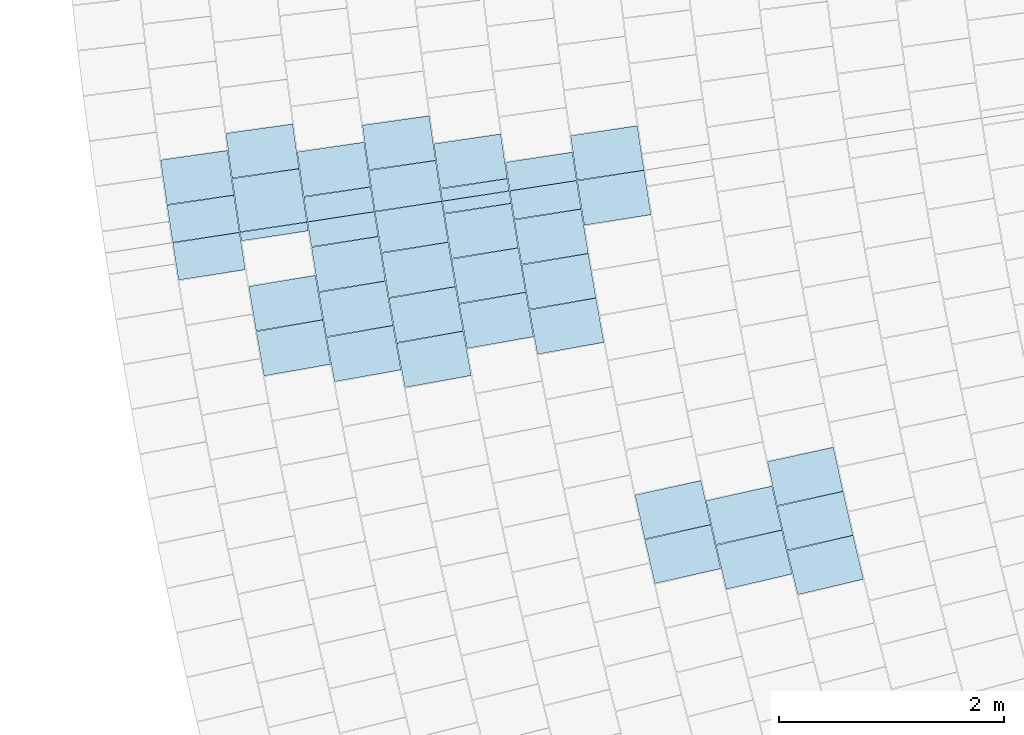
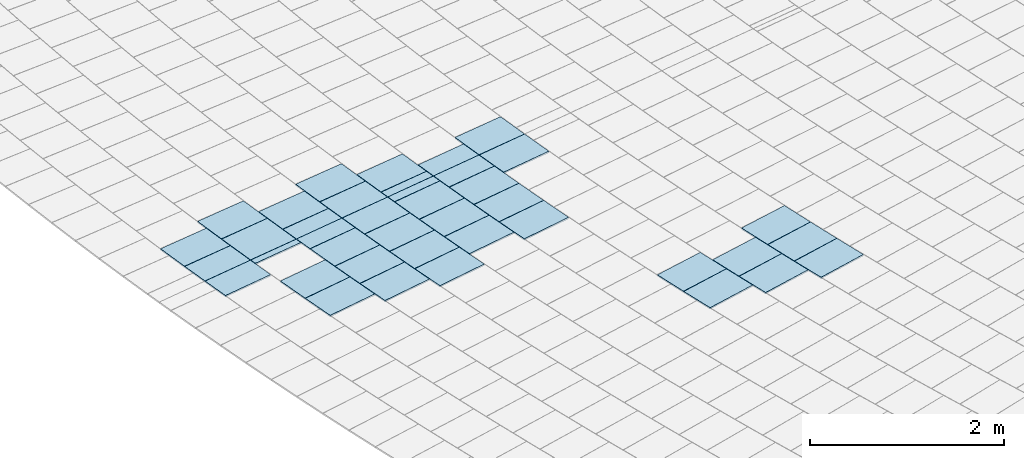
# One storey, part 75 of 438: 40 slabs.
"""IFC2X3 building model written with IfcOpenShell, lengths in millimetres."""

from ifc_helpers import new_model, entity, si_unit, converted_unit, derived_unit, direction, frame, origin, place, context, subcontext, project, spatial, polyline, outline, extrude, material, layer, layer_set, layer_usage, type_object, element, save


model = new_model("IFC2X3")

# Units and contexts
model_context = context("Model", 3, precision=0.01, world=origin(), true_north=direction((6.123031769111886e-17, 1.0)))
body_context = subcontext(model_context, "Body", "Model", "MODEL_VIEW")
ifc_project = project(units=[si_unit("LENGTHUNIT", "METRE", prefix="MILLI"), si_unit("AREAUNIT", "SQUARE_METRE"), si_unit("VOLUMEUNIT", "CUBIC_METRE"), converted_unit("PLANEANGLEUNIT", "DEGREE", entity("IfcRatioMeasure", 0.017453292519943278), si_unit("PLANEANGLEUNIT", "RADIAN"), dimensions=[0, 0, 0, 0, 0, 0, 0]), si_unit("MASSUNIT", "GRAM", prefix="KILO"), derived_unit("MASSDENSITYUNIT", [(si_unit("MASSUNIT", "GRAM", prefix="KILO"), 1), (si_unit("LENGTHUNIT", "METRE"), -3)]), derived_unit("MOMENTOFINERTIAUNIT", [(si_unit("LENGTHUNIT", "METRE"), 4)]), si_unit("TIMEUNIT", "SECOND"), si_unit("FREQUENCYUNIT", "HERTZ"), si_unit("THERMODYNAMICTEMPERATUREUNIT", "DEGREE_CELSIUS"), derived_unit("THERMALTRANSMITTANCEUNIT", [(si_unit("MASSUNIT", "GRAM", prefix="KILO"), 1), (si_unit("THERMODYNAMICTEMPERATUREUNIT", "KELVIN"), -1), (si_unit("TIMEUNIT", "SECOND"), -3)]), derived_unit("THERMALCONDUCTANCEUNIT", [(si_unit("MASSUNIT", "GRAM", prefix="KILO"), 1), (si_unit("LENGTHUNIT", "METRE"), 1), (si_unit("THERMODYNAMICTEMPERATUREUNIT", "KELVIN"), -1), (si_unit("TIMEUNIT", "SECOND"), -3)]), derived_unit("VOLUMETRICFLOWRATEUNIT", [(si_unit("LENGTHUNIT", "METRE"), 3), (si_unit("TIMEUNIT", "SECOND"), -1)]), derived_unit("MASSFLOWRATEUNIT", [(si_unit("MASSUNIT", "GRAM", prefix="KILO"), 1), (si_unit("TIMEUNIT", "SECOND"), -1)]), derived_unit("ROTATIONALFREQUENCYUNIT", [(si_unit("TIMEUNIT", "SECOND"), -1)]), si_unit("ELECTRICCURRENTUNIT", "AMPERE"), si_unit("ELECTRICVOLTAGEUNIT", "VOLT"), si_unit("POWERUNIT", "WATT"), converted_unit("FORCEUNIT", "KIP", entity("IfcRatioMeasure", 2.088543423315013e-05), si_unit("FORCEUNIT", "NEWTON"), dimensions=[1, 1, -2, 0, 0, 0, 0]), si_unit("ILLUMINANCEUNIT", "LUX"), si_unit("LUMINOUSFLUXUNIT", "LUMEN"), si_unit("LUMINOUSINTENSITYUNIT", "CANDELA"), derived_unit("USERDEFINED", [(si_unit("MASSUNIT", "GRAM", prefix="KILO"), -1), (si_unit("LENGTHUNIT", "METRE"), -2), (si_unit("TIMEUNIT", "SECOND"), 3), (si_unit("LUMINOUSFLUXUNIT", "LUMEN"), 1)]), derived_unit("USERDEFINED", [(si_unit("MASSUNIT", "GRAM", prefix="KILO"), 1), (si_unit("LENGTHUNIT", "METRE"), 3), (si_unit("TIMEUNIT", "SECOND"), -3), (si_unit("ELECTRICCURRENTUNIT", "AMPERE"), -2)]), derived_unit("USERDEFINED", [(si_unit("LENGTHUNIT", "METRE"), 2), (si_unit("TIMEUNIT", "SECOND"), -2)]), derived_unit("SOUNDPOWERUNIT", [(si_unit("MASSUNIT", "GRAM", prefix="KILO"), 1), (si_unit("LENGTHUNIT", "METRE"), 2), (si_unit("TIMEUNIT", "SECOND"), -3)]), derived_unit("SOUNDPRESSUREUNIT", [(si_unit("MASSUNIT", "GRAM", prefix="KILO"), 1), (si_unit("LENGTHUNIT", "METRE"), -1), (si_unit("TIMEUNIT", "SECOND"), -2)]), derived_unit("LINEARVELOCITYUNIT", [(si_unit("LENGTHUNIT", "METRE"), 1), (si_unit("TIMEUNIT", "SECOND"), -1)]), si_unit("PRESSUREUNIT", "PASCAL"), derived_unit("USERDEFINED", [(si_unit("LENGTHUNIT", "METRE"), -2), (si_unit("MASSUNIT", "GRAM", prefix="KILO"), 1), (si_unit("TIMEUNIT", "SECOND"), -2)]), derived_unit("LINEARFORCEUNIT", [(si_unit("MASSUNIT", "GRAM", prefix="KILO"), 1), (si_unit("LENGTHUNIT", "METRE"), 1), (si_unit("TIMEUNIT", "SECOND"), -2), (si_unit("LENGTHUNIT", "METRE"), -1)]), derived_unit("PLANARFORCEUNIT", [(si_unit("MASSUNIT", "GRAM", prefix="KILO"), 1), (si_unit("LENGTHUNIT", "METRE"), 1), (si_unit("TIMEUNIT", "SECOND"), -2), (si_unit("LENGTHUNIT", "METRE"), -2)]), derived_unit("SPECIFICHEATCAPACITYUNIT", [(si_unit("LENGTHUNIT", "METRE"), 2), (si_unit("TIMEUNIT", "SECOND"), -2), (si_unit("THERMODYNAMICTEMPERATUREUNIT", "KELVIN"), -1)]), derived_unit("VAPORPERMEABILITYUNIT", [(si_unit("TIMEUNIT", "SECOND"), 1), (si_unit("LENGTHUNIT", "METRE"), -1)]), derived_unit("DYNAMICVISCOSITYUNIT", [(si_unit("MASSUNIT", "GRAM", prefix="KILO"), 1), (si_unit("LENGTHUNIT", "METRE"), -1), (si_unit("TIMEUNIT", "SECOND"), -1)]), derived_unit("THERMALEXPANSIONCOEFFICIENTUNIT", [(si_unit("THERMODYNAMICTEMPERATUREUNIT", "KELVIN"), -1)])], contexts=[model_context])

# Site, building, storey
site_placement = place(None, frame((0.0, 0.0, 0.0), z_axis=(0.0, 0.0, 1.0), x_axis=(0.8191520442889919, 0.5735764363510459, 0.0)))
site = spatial("IfcSite", under=ifc_project, at=site_placement, Name="Default", CompositionType="ELEMENT")
building_placement = place(site_placement, origin())
building = spatial("IfcBuilding", under=site, at=building_placement, CompositionType="ELEMENT")
storey_placement = place(building_placement, origin())
storey = spatial("IfcBuildingStorey", under=building, at=storey_placement, Name="PLAN", CompositionType="ELEMENT", Elevation=0.0)

# Slabs
ifc_material = material(Name="Paint-01")
ifc_layer = layer(ifc_material, 20.00000000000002)
ifc_layer_set = layer_set([ifc_layer], Name="Floor:Slab-179:1000")
ifc_layer_usage = layer_usage(ifc_layer_set, "AXIS3", "POSITIVE", 0.0)
slab_type = type_object("IfcSlabType", Name="Floor:Slab-179:1000", PredefinedType="FLOOR", material=ifc_layer_set)
slab_1_placement = place(storey_placement, origin())
element("IfcSlab", 1, at=slab_1_placement, inside=storey, type_object=slab_type, material=ifc_layer_usage, Name="Floor:Slab-179:1000", ObjectType="Floor:Slab-179:1000", PredefinedType="FLOOR", context=body_context, shape_type="SweptSolid", body=[
    extrude(outline(polyline([(-200.00000453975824, -299.9999986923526), (200.00000134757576, -299.9999986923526), (200.00000453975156, 299.9999986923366), (-200.00000134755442, 299.99999869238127), (-200.00000453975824, -299.9999986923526)])), frame((-83404.63224532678, -49925.75519524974, 520.0), z_axis=(0.0, 0.0, -1.0), x_axis=(-0.3859066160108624, -0.9225378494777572, 0.0)), (0.0, 0.0, 1.0), 20.000000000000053),
])
slab_2_placement = place(storey_placement, origin())
element("IfcSlab", 2, at=slab_2_placement, inside=storey, type_object=slab_type, material=ifc_layer_usage, Name="Floor:Slab-179:1000", ObjectType="Floor:Slab-179:1000", PredefinedType="FLOOR", context=body_context, shape_type="SweptSolid", body=[
    extrude(outline(polyline([(-200.00000453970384, -299.99999869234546), (200.00000134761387, -299.99999869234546), (200.00000453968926, 299.9999986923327), (-200.0000013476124, 299.99999869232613), (-200.00000453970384, -299.99999869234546)])), frame((-83558.38920477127, -50297.81895995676, 520.0), z_axis=(0.0, 0.0, -1.0), x_axis=(-0.37793951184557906, -0.9258302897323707, 0.0)), (0.0, 0.0, 1.0), 20.000000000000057),
])
slab_3_placement = place(storey_placement, origin())
element("IfcSlab", 3, at=slab_3_placement, inside=storey, type_object=slab_type, material=ifc_layer_usage, Name="Floor:Slab-179:1000", ObjectType="Floor:Slab-179:1000", PredefinedType="FLOOR", context=body_context, shape_type="SweptSolid", body=[
    extrude(outline(polyline([(-200.0000045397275, -299.9999986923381), (200.00000134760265, -299.9999986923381), (200.0000045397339, 299.99999869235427), (-200.00000134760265, 299.9999986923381), (-200.0000045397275, -299.9999986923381)])), frame((-83708.93306429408, -50671.194366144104, 520.0), z_axis=(0.0, 0.0, -1.0), x_axis=(-0.36994432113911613, -0.9290539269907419, 0.0)), (0.0, 0.0, 1.0), 20.000000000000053),
])
slab_4_placement = place(storey_placement, origin())
element("IfcSlab", 4, at=slab_4_placement, inside=storey, type_object=slab_type, material=ifc_layer_usage, Name="Floor:Slab-179:1000", ObjectType="Floor:Slab-179:1000", PredefinedType="FLOOR", context=body_context, shape_type="SweptSolid", body=[
    extrude(outline(polyline([(-300.0, -200.0000029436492), (299.9999976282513, -200.00000294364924), (300.0, 200.00000294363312), (-299.9999976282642, 200.0000029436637), (-300.0, -200.0000029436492)])), frame((-84199.78431900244, -50269.553228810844, 520.0), z_axis=(0.0, 0.0, -1.0), x_axis=(0.9275482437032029, -0.3737034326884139, 0.0)), (0.0, 0.0, 1.0), 20.000000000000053),
])
slab_5_placement = place(storey_placement, origin())
element("IfcSlab", 5, at=slab_5_placement, inside=storey, type_object=slab_type, material=ifc_layer_usage, Name="Floor:Slab-179:1000", ObjectType="Floor:Slab-179:1000", PredefinedType="FLOOR", context=body_context, shape_type="SweptSolid", body=[
    extrude(outline(polyline([(-300.0, -200.0000029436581), (299.99999762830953, -200.00000294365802), (300.0, 200.0000029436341), (-299.99999762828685, 200.00000294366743), (-300.0, -200.0000029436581)])), frame((-84047.7629479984, -49896.81280012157, 520.0), z_axis=(0.0, 0.0, -1.0), x_axis=(0.9243346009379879, -0.3815829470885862, 0.0)), (0.0, 0.0, 1.0), 19.99999999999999),
])
slab_6_placement = place(storey_placement, origin())
element("IfcSlab", 6, at=slab_6_placement, inside=storey, type_object=slab_type, material=ifc_layer_usage, Name="Floor:Slab-179:1000", ObjectType="Floor:Slab-179:1000", PredefinedType="FLOOR", context=body_context, shape_type="SweptSolid", body=[
    extrude(outline(polyline([(-300.0, -200.0000029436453), (299.99999762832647, -200.00000294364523), (300.0, 200.00000294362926), (-299.9999976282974, 200.00000294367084), (-300.0, -200.0000029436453)])), frame((-84689.25935147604, -49866.53852642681, 520.0), z_axis=(0.0, 0.0, -1.0), x_axis=(0.9260518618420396, -0.37739627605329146, 0.0)), (0.0, 0.0, 1.0), 20.000000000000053),
])
slab_7_placement = place(storey_placement, origin())
element("IfcSlab", 7, at=slab_7_placement, inside=storey, type_object=slab_type, material=ifc_layer_usage, Name="Floor:Slab-179:1000", ObjectType="Floor:Slab-179:1000", PredefinedType="FLOOR", context=body_context, shape_type="SweptSolid", body=[
    extrude(outline(polyline([(-300.0, -200.00000294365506), (299.99999762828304, -200.00000294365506), (300.0, 200.0000029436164), (-299.99999762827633, 200.00000294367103), (-300.0, -200.00000294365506)])), frame((-84535.78645988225, -49494.428390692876, 520.0), z_axis=(0.0, 0.0, -1.0), x_axis=(0.9228485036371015, -0.3851631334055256, 0.0)), (0.0, 0.0, 1.0), 20.000000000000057),
])
slab_8_placement = place(storey_placement, origin())
element("IfcSlab", 8, at=slab_8_placement, inside=storey, type_object=slab_type, material=ifc_layer_usage, Name="Floor:Slab-179:1000", ObjectType="Floor:Slab-179:1000", PredefinedType="FLOOR", context=body_context, shape_type="SweptSolid", body=[
    extrude(outline(polyline([(-299.99999869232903, -199.5897597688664), (299.9999986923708, -199.5897597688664), (299.99999869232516, 199.5897613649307), (-299.99999869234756, 199.58975817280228), (-299.99999869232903, -199.5897597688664)])), frame((-83374.90678068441, -46927.95591416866, 520.0), z_axis=(0.0, 0.0, -1.0), x_axis=(0.898614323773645, -0.4387394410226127, 0.0)), (0.0, 0.0, 1.0), 20.000000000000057),
])
slab_9_placement = place(storey_placement, origin())
element("IfcSlab", 9, at=slab_9_placement, inside=storey, type_object=slab_type, material=ifc_layer_usage, Name="Floor:Slab-179:1000", ObjectType="Floor:Slab-179:1000", PredefinedType="FLOOR", context=body_context, shape_type="SweptSolid", body=[
    extrude(outline(polyline([(-300.0, -200.0000029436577), (299.99999762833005, -200.00000294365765), (300.0, 200.00000294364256), (-299.9999976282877, 200.00000294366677), (-300.0, -200.0000029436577)])), frame((-84372.97571455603, -47619.611808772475, 520.0), z_axis=(0.0, 0.0, -1.0), x_axis=(0.9079843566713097, -0.41900406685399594, 0.0)), (0.0, 0.0, 1.0), 20.000000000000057),
])
slab_10_placement = place(storey_placement, origin())
element("IfcSlab", 10, at=slab_10_placement, inside=storey, type_object=slab_type, material=ifc_layer_usage, Name="Floor:Slab-179:1000", ObjectType="Floor:Slab-179:1000", PredefinedType="FLOOR", context=body_context, shape_type="SweptSolid", body=[
    extrude(outline(polyline([(-300.0, -200.00000294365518), (299.99999762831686, -200.00000294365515), (300.0, 200.00000294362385), (-299.9999976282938, 200.00000294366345), (-300.0, -200.00000294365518)])), frame((-84202.81824087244, -47254.86405000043, 520.0), z_axis=(0.0, 0.0, -1.0), x_axis=(0.9044770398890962, -0.42652231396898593, 0.0)), (0.0, 0.0, 1.0), 20.000000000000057),
])
slab_11_placement = place(storey_placement, origin())
element("IfcSlab", 11, at=slab_11_placement, inside=storey, type_object=slab_type, material=ifc_layer_usage, Name="Floor:Slab-179:1000", ObjectType="Floor:Slab-179:1000", PredefinedType="FLOOR", context=body_context, shape_type="SweptSolid", body=[
    extrude(outline(polyline([(-299.9999986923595, -127.54038940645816), (299.9999986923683, -127.5403894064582), (299.9999986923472, 127.54039100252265), (-299.9999986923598, 127.54038781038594), (-299.9999986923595, -127.54038940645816)])), frame((-83885.44366496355, -46594.68235410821, 520.0), z_axis=(0.0, 0.0, -1.0), x_axis=(0.8972759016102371, -0.4414702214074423, 0.0)), (0.0, 0.0, 1.0), 20.000000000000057),
])
slab_12_placement = place(storey_placement, origin())
element("IfcSlab", 12, at=slab_12_placement, inside=storey, type_object=slab_type, material=ifc_layer_usage, Name="Floor:Slab-179:1000", ObjectType="Floor:Slab-179:1000", PredefinedType="FLOOR", context=body_context, shape_type="SweptSolid", body=[
    extrude(outline(polyline([(-300.0, -200.00000294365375), (299.99999762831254, -200.0000029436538), (300.0, 200.0000029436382), (-299.99999762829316, 200.0000029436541), (-300.0, -200.00000294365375)])), frame((-84029.64066413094, -46891.54047480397, 520.0), z_axis=(0.0, 0.0, -1.0), x_axis=(0.9009074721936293, -0.4340112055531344, 0.0)), (0.0, 0.0, 1.0), 20.000000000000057),
])
slab_13_placement = place(storey_placement, origin())
element("IfcSlab", 13, at=slab_13_placement, inside=storey, type_object=slab_type, material=ifc_layer_usage, Name="Floor:Slab-179:1000", ObjectType="Floor:Slab-179:1000", PredefinedType="FLOOR", context=body_context, shape_type="SweptSolid", body=[
    extrude(outline(polyline([(-300.0, -200.00000294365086), (299.9999976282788, -200.00000294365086), (300.0, 200.00000294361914), (-299.99999762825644, 200.00000294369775), (-300.0, -200.00000294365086)])), frame((-84683.36057610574, -46856.02565603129, 520.0), z_axis=(0.0, 0.0, -1.0), x_axis=(0.9031198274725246, -0.429388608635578, 0.0)), (0.0, 0.0, 1.0), 20.000000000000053),
])
slab_14_placement = place(storey_placement, origin())
element("IfcSlab", 14, at=slab_14_placement, inside=storey, type_object=slab_type, material=ifc_layer_usage, Name="Floor:Slab-179:1000", ObjectType="Floor:Slab-179:1000", PredefinedType="FLOOR", context=body_context, shape_type="SweptSolid", body=[
    extrude(outline(polyline([(-300.0, -200.00000294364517), (299.99999762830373, -200.00000294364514), (300.0, 200.00000294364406), (-299.99999762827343, 200.00000294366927), (-300.0, -200.00000294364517)])), frame((-84854.67957600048, -47220.195308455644, 520.0), z_axis=(0.0, 0.0, -1.0), x_axis=(0.9066075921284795, -0.42197473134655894, 0.0)), (0.0, 0.0, 1.0), 20.000000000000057),
])
slab_15_placement = place(storey_placement, origin())
element("IfcSlab", 15, at=slab_15_placement, inside=storey, type_object=slab_type, material=ifc_layer_usage, Name="Floor:Slab-179:1000", ObjectType="Floor:Slab-179:1000", PredefinedType="FLOOR", context=body_context, shape_type="SweptSolid", body=[
    extrude(outline(polyline([(-300.0, -200.0000029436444), (299.999997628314, -200.00000294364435), (300.0, 200.00000294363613), (-299.9999976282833, 200.000002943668), (-300.0, -200.0000029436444)])), frame((-84509.06360227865, -46493.27188225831, 520.0), z_axis=(0.0, 0.0, -1.0), x_axis=(0.8995714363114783, -0.4367736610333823, 0.0)), (0.0, 0.0, 1.0), 19.99999999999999),
])
slab_16_placement = place(storey_placement, origin())
element("IfcSlab", 16, at=slab_16_placement, inside=storey, type_object=slab_type, material=ifc_layer_usage, Name="Floor:Slab-179:1000", ObjectType="Floor:Slab-179:1000", PredefinedType="FLOOR", context=body_context, shape_type="SweptSolid", body=[
    extrude(outline(polyline([(-299.9999989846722, -54.94449933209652), (299.999998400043, -54.94449933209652), (299.9999989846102, 54.94449933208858), (-299.9999984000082, 54.944499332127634), (-299.9999989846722, -54.94449933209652)])), frame((-84396.2237671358, -46261.92265357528, 520.0), z_axis=(0.0, 0.0, -1.0), x_axis=(0.8959626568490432, -0.44412939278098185, 0.0)), (0.0, 0.0, 1.0), 20.000000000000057),
])
slab_17_placement = place(storey_placement, origin())
element("IfcSlab", 17, at=slab_17_placement, inside=storey, type_object=slab_type, material=ifc_layer_usage, Name="Floor:Slab-179:1000", ObjectType="Floor:Slab-179:1000", PredefinedType="FLOOR", context=body_context, shape_type="SweptSolid", body=[
    extrude(outline(polyline([(-300.0, -200.00000294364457), (299.99999762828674, -200.0000029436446), (300.0, 200.0000029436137), (-299.99999762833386, 200.00000294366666), (-300.0, -200.00000294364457)])), frame((-85335.92784570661, -46821.01732748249, 520.0), z_axis=(0.0, 0.0, -1.0), x_axis=(0.9052551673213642, -0.424868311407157, 0.0)), (0.0, 0.0, 1.0), 20.000000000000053),
])
slab_18_placement = place(storey_placement, origin())
element("IfcSlab", 18, at=slab_18_placement, inside=storey, type_object=slab_type, material=ifc_layer_usage, Name="Floor:Slab-179:1000", ObjectType="Floor:Slab-179:1000", PredefinedType="FLOOR", context=body_context, shape_type="SweptSolid", body=[
    extrude(outline(polyline([(-300.0, -200.00000294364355), (299.9999976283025, -200.00000294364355), (300.0, 200.00000294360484), (-299.9999976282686, 200.0000029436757), (-300.0, -200.00000294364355)])), frame((-85505.42979139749, -47186.0031834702, 520.0), z_axis=(0.0, 0.0, -1.0), x_axis=(0.9086639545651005, -0.41752822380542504, 0.0)), (0.0, 0.0, 1.0), 19.999999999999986),
])
slab_19_placement = place(storey_placement, origin())
element("IfcSlab", 19, at=slab_19_placement, inside=storey, type_object=slab_type, material=ifc_layer_usage, Name="Floor:Slab-179:1000", ObjectType="Floor:Slab-179:1000", PredefinedType="FLOOR", context=body_context, shape_type="SweptSolid", body=[
    extrude(outline(polyline([(-300.0, -200.00000294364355), (299.99999762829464, -200.00000294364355), (300.0, 200.00000294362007), (-299.9999976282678, 200.0000029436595), (-300.0, -200.00000294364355)])), frame((-85163.47764305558, -46457.41519290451, 520.0), z_axis=(0.0, 0.0, -1.0), x_axis=(0.901787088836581, -0.43218057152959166, 0.0)), (0.0, 0.0, 1.0), 20.000000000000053),
])
slab_20_placement = place(storey_placement, origin())
element("IfcSlab", 20, at=slab_20_placement, inside=storey, type_object=slab_type, material=ifc_layer_usage, Name="Floor:Slab-179:1000", ObjectType="Floor:Slab-179:1000", PredefinedType="FLOOR", context=body_context, shape_type="SweptSolid", body=[
    extrude(outline(polyline([(-300.0, -183.44195435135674), (299.99999771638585, -183.4419543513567), (300.0, 183.44195435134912), (-299.99999771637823, 183.4419543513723), (-300.0, -183.44195435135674)])), frame((-84995.36715325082, -46110.094026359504, 520.0), z_axis=(0.0, 0.0, -1.0), x_axis=(0.898259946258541, -0.4394645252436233, 0.0)), (0.0, 0.0, 1.0), 20.000000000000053),
])
slab_21_placement = place(storey_placement, origin())
element("IfcSlab", 21, at=slab_21_placement, inside=storey, type_object=slab_type, material=ifc_layer_usage, Name="Floor:Slab-179:1000", ObjectType="Floor:Slab-179:1000", PredefinedType="FLOOR", context=body_context, shape_type="SweptSolid", body=[
    extrude(outline(polyline([(-300.0, -200.00000294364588), (299.9999976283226, -200.00000294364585), (300.0, 200.00000294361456), (-299.9999976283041, 200.000002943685), (-300.0, -200.00000294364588)])), frame((-85816.7378220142, -46422.070599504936, 520.0), z_axis=(0.0, 0.0, -1.0), x_axis=(0.9039265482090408, -0.42768773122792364, 0.0)), (0.0, 0.0, 1.0), 19.999999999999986),
])
slab_22_placement = place(storey_placement, origin())
element("IfcSlab", 22, at=slab_22_placement, inside=storey, type_object=slab_type, material=ifc_layer_usage, Name="Floor:Slab-179:1000", ObjectType="Floor:Slab-179:1000", PredefinedType="FLOOR", context=body_context, shape_type="SweptSolid", body=[
    extrude(outline(polyline([(-300.0, -200.0000029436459), (299.9999976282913, -200.0000029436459), (300.0, 200.0000029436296), (-299.9999976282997, 200.0000029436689), (-300.0, -200.0000029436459)])), frame((-85987.38194249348, -46786.4915141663, 520.0), z_axis=(0.0, 0.0, -1.0), x_axis=(0.9073170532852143, -0.4204471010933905, 0.0)), (0.0, 0.0, 1.0), 20.000000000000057),
])
slab_23_placement = place(storey_placement, origin())
element("IfcSlab", 23, at=slab_23_placement, inside=storey, type_object=slab_type, material=ifc_layer_usage, Name="Floor:Slab-179:1000", ObjectType="Floor:Slab-179:1000", PredefinedType="FLOOR", context=body_context, shape_type="SweptSolid", body=[
    extrude(outline(polyline([(-299.9999986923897, -111.39281443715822), (299.99999869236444, -111.39281443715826), (299.9999986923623, 111.39281603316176), (-299.9999986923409, 111.39281284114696), (-299.9999986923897, -111.39281443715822)])), frame((-85505.90836162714, -45776.85806058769, 520.0), z_axis=(0.0, 0.0, -1.0), x_axis=(0.8969724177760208, -0.4420865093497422, 0.0)), (0.0, 0.0, 1.0), 20.000000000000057),
])
slab_24_placement = place(storey_placement, origin())
element("IfcSlab", 24, at=slab_24_placement, inside=storey, type_object=slab_type, material=ifc_layer_usage, Name="Floor:Slab-179:1000", ObjectType="Floor:Slab-179:1000", PredefinedType="FLOOR", context=body_context, shape_type="SweptSolid", body=[
    extrude(outline(polyline([(-300.0, -200.00000294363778), (299.9999976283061, -200.00000294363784), (300.0, 200.0000029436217), (-299.99999762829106, 200.00000294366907), (-300.0, -200.00000294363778)])), frame((-85643.18558288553, -46059.02564472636, 520.0), z_axis=(0.0, 0.0, -1.0), x_axis=(0.9004782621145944, -0.43490102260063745, 0.0)), (0.0, 0.0, 1.0), 19.999999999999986),
])
slab_25_placement = place(storey_placement, origin())
element("IfcSlab", 25, at=slab_25_placement, inside=storey, type_object=slab_type, material=ifc_layer_usage, Name="Floor:Slab-179:1000", ObjectType="Floor:Slab-179:1000", PredefinedType="FLOOR", context=body_context, shape_type="SweptSolid", body=[
    extrude(outline(polyline([(-300.0, -200.00000294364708), (299.9999976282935, -200.00000294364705), (300.0, 200.0000029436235), (-299.9999976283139, 200.00000294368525), (-300.0, -200.00000294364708)])), frame((-86468.88313417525, -46387.21416360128, 520.0), z_axis=(0.0, 0.0, -1.0), x_axis=(0.9059932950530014, -0.42329203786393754, 0.0)), (0.0, 0.0, 1.0), 20.000000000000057),
])
slab_26_placement = place(storey_placement, origin())
element("IfcSlab", 26, at=slab_26_placement, inside=storey, type_object=slab_type, material=ifc_layer_usage, Name="Floor:Slab-179:1000", ObjectType="Floor:Slab-179:1000", PredefinedType="FLOOR", context=body_context, shape_type="SweptSolid", body=[
    extrude(outline(polyline([(-300.0, -200.00000294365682), (299.99999762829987, -200.00000294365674), (300.0, 200.00000294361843), (-299.99999762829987, 200.00000294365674), (-300.0, -200.00000294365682)])), frame((-86297.12594423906, -46023.34813760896, 520.0), z_axis=(0.0, 0.0, -1.0), x_axis=(0.9026212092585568, -0.4304357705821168, 0.0)), (0.0, 0.0, 1.0), 20.000000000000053),
])
slab_27_placement = place(storey_placement, origin())
element("IfcSlab", 27, at=slab_27_placement, inside=storey, type_object=slab_type, material=ifc_layer_usage, Name="Floor:Slab-179:1000", ObjectType="Floor:Slab-179:1000", PredefinedType="FLOOR", context=body_context, shape_type="SweptSolid", body=[
    extrude(outline(polyline([(-299.9999988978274, -38.625114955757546), (299.9999984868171, -38.62511495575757), (299.99999889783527, 38.62511495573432), (-299.99999848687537, 38.62511495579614), (-299.9999988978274, -38.625114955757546)])), frame((-86016.76949044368, -45444.2880031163, 520.0), z_axis=(0.0, 0.0, -1.0), x_axis=(0.8957082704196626, -0.44464220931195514, 0.0)), (0.0, 0.0, 1.0), 20.000000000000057),
])
slab_28_placement = place(storey_placement, origin())
element("IfcSlab", 28, at=slab_28_placement, inside=storey, type_object=slab_type, material=ifc_layer_usage, Name="Floor:Slab-179:1000", ObjectType="Floor:Slab-179:1000", PredefinedType="FLOOR", context=body_context, shape_type="SweptSolid", body=[
    extrude(outline(polyline([(-300.0, -167.29426668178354), (299.99999780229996, -167.29426668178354), (300.0, 167.2942666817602), (-299.99999780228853, 167.29426668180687), (-300.0, -167.29426668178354)])), frame((-86615.8297235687, -45292.25005401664, 520.0), z_axis=(0.0, 0.0, -1.0), x_axis=(0.8979301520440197, -0.44013798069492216, 0.0)), (0.0, 0.0, 1.0), 19.99999999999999),
])
slab_29_placement = place(storey_placement, origin())
element("IfcSlab", 29, at=slab_29_placement, inside=storey, type_object=slab_type, material=ifc_layer_usage, Name="Floor:Slab-179:1000", ObjectType="Floor:Slab-179:1000", PredefinedType="FLOOR", context=body_context, shape_type="SweptSolid", body=[
    extrude(outline(polyline([(-299.99999763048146, -199.58975976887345), (300.0, -199.58975976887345), (299.99999763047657, 199.58976136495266), (-300.0, 199.58975817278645), (-299.99999763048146, -199.58975976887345)])), frame((-83197.32926751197, -46568.06952145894, 520.0), z_axis=(0.0, 0.0, -1.0), x_axis=(0.8949154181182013, -0.44623580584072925, 0.0)), (0.0, 0.0, 1.0), 19.99999999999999),
])
slab_30_placement = place(storey_placement, origin())
element("IfcSlab", 30, at=slab_30_placement, inside=storey, type_object=slab_type, material=ifc_layer_usage, Name="Floor:Slab-179:1000", ObjectType="Floor:Slab-179:1000", PredefinedType="FLOOR", context=body_context, shape_type="SweptSolid", body=[
    extrude(outline(polyline([(-299.9999980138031, -127.54038940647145), (299.9999993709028, -127.54038940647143), (299.9999980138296, 127.54039100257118), (-299.99999937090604, 127.54038781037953), (-299.9999980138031, -127.54038940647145)])), frame((-83772.4366377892, -46365.657346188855, 520.0), z_axis=(0.0, 0.0, -1.0), x_axis=(0.8962683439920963, -0.4435121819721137, 0.0)), (0.0, 0.0, 1.0), 20.000000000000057),
])
slab_31_placement = place(storey_placement, origin())
element("IfcSlab", 31, at=slab_31_placement, inside=storey, type_object=slab_type, material=ifc_layer_usage, Name="Floor:Slab-179:1000", ObjectType="Floor:Slab-179:1000", PredefinedType="FLOOR", context=body_context, shape_type="SweptSolid", body=[
    extrude(outline(polyline([(-299.99999840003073, -54.94449933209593), (299.9999989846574, -54.9444993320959), (299.99999840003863, 54.944499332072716), (-299.99999898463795, 54.94449933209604), (-299.99999840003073, -54.94449933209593)])), frame((-84347.28416884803, -46162.73951279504, 520.0), z_axis=(0.0, 0.0, -1.0), x_axis=(0.8975797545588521, -0.44085211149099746, 0.0)), (0.0, 0.0, 1.0), 20.000000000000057),
])
slab_32_placement = place(storey_placement, origin())
element("IfcSlab", 32, at=slab_32_placement, inside=storey, type_object=slab_type, material=ifc_layer_usage, Name="Floor:Slab-179:1000", ObjectType="Floor:Slab-179:1000", PredefinedType="FLOOR", context=body_context, shape_type="SweptSolid", body=[
    extrude(outline(polyline([(-299.9999976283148, -200.00000294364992), (300.0, -200.00000294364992), (299.9999976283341, 200.00000294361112), (-300.0, 200.00000294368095), (-299.9999976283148, -200.00000294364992)])), frame((-84232.33085358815, -45932.4331313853, 520.0), z_axis=(0.0, 0.0, -1.0), x_axis=(0.8939376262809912, -0.44819138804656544, 0.0)), (0.0, 0.0, 1.0), 20.000000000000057),
])
slab_33_placement = place(storey_placement, origin())
element("IfcSlab", 33, at=slab_33_placement, inside=storey, type_object=slab_type, material=ifc_layer_usage, Name="Floor:Slab-179:1000", ObjectType="Floor:Slab-179:1000", PredefinedType="FLOOR", context=body_context, shape_type="SweptSolid", body=[
    extrude(outline(polyline([(-299.99999762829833, -200.00000294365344), (300.0, -200.00000294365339), (299.99999762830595, 200.00000294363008), (-300.0, 200.00000294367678), (-299.99999762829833, -200.00000294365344)])), frame((-84658.93492545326, -45434.8867468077, 520.0), z_axis=(0.0, 0.0, -1.0), x_axis=(0.8916404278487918, -0.4527442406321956, 0.0)), (0.0, 0.0, 1.0), 20.000000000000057),
])
slab_34_placement = place(storey_placement, origin())
element("IfcSlab", 34, at=slab_34_placement, inside=storey, type_object=slab_type, material=ifc_layer_usage, Name="Floor:Slab-179:1000", ObjectType="Floor:Slab-179:1000", PredefinedType="FLOOR", context=body_context, shape_type="SweptSolid", body=[
    extrude(outline(polyline([(-299.9999977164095, -183.44195435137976), (300.0, -183.44195435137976), (299.9999977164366, 183.44195435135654), (-300.0, 183.44195435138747), (-299.9999977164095, -183.44195435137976)])), frame((-84832.30007728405, -45779.61512342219, 520.0), z_axis=(0.0, 0.0, -1.0), x_axis=(0.8952752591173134, -0.4455134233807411, 0.0)), (0.0, 0.0, 1.0), 19.999999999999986),
])
slab_35_placement = place(storey_placement, origin())
element("IfcSlab", 35, at=slab_35_placement, inside=storey, type_object=slab_type, material=ifc_layer_usage, Name="Floor:Slab-179:1000", ObjectType="Floor:Slab-179:1000", PredefinedType="FLOOR", context=body_context, shape_type="SweptSolid", body=[
    extrude(outline(polyline([(-299.9999976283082, -200.00000294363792), (300.0, -200.00000294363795), (299.99999762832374, 200.00000294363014), (-300.0, 200.00000294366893), (-299.9999976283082, -200.00000294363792)])), frame((-85266.96379618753, -45296.55803689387, 520.0), z_axis=(0.0, 0.0, -1.0), x_axis=(0.8930031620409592, -0.4500503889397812, 0.0)), (0.0, 0.0, 1.0), 20.000000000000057),
])
slab_36_placement = place(storey_placement, origin())
element("IfcSlab", 36, at=slab_36_placement, inside=storey, type_object=slab_type, material=ifc_layer_usage, Name="Floor:Slab-179:1000", ObjectType="Floor:Slab-179:1000", PredefinedType="FLOOR", context=body_context, shape_type="SweptSolid", body=[
    extrude(outline(polyline([(-299.9999980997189, -111.39281523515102), (299.9999992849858, -111.39281523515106), (299.99999809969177, 111.39281523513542), (-299.9999992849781, 111.3928152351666), (-299.9999980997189, -111.39281523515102)])), frame((-85407.3802428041, -45577.17664467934, 520.0), z_axis=(0.0, 0.0, -1.0), x_axis=(0.8965728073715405, -0.442896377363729, 0.0)), (0.0, 0.0, 1.0), 19.999999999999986),
])
slab_37_placement = place(storey_placement, origin())
element("IfcSlab", 37, at=slab_37_placement, inside=storey, type_object=slab_type, material=ifc_layer_usage, Name="Floor:Slab-179:1000", ObjectType="Floor:Slab-179:1000", PredefinedType="FLOOR", context=body_context, shape_type="SweptSolid", body=[
    extrude(outline(polyline([(-299.99999762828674, -200.00000294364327), (300.0, -200.00000294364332), (299.999997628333, 200.00000294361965), (-300.0, 200.00000294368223), (-299.99999762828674, -200.00000294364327)])), frame((-85693.13747613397, -44799.278562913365, 520.0), z_axis=(0.0, 0.0, -1.0), x_axis=(0.8907631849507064, -0.45446776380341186, 0.0)), (0.0, 0.0, 1.0), 20.000000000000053),
])
slab_38_placement = place(storey_placement, origin())
element("IfcSlab", 38, at=slab_38_placement, inside=storey, type_object=slab_type, material=ifc_layer_usage, Name="Floor:Slab-179:1000", ObjectType="Floor:Slab-179:1000", PredefinedType="FLOOR", context=body_context, shape_type="SweptSolid", body=[
    extrude(outline(polyline([(-239.3443481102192, -299.9999986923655), (239.34434491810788, -299.9999986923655), (239.34434811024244, 299.99999869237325), (-239.34434491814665, 299.99999869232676), (-239.3443481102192, -299.9999986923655)])), frame((-85892.18643828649, -45193.598193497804, 520.0), z_axis=(0.0, 0.0, -1.0), x_axis=(-0.4474169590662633, -0.8943254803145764, 0.0)), (0.0, 0.0, 1.0), 19.99999999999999),
])
slab_39_placement = place(storey_placement, origin())
element("IfcSlab", 39, at=slab_39_placement, inside=storey, type_object=slab_type, material=ifc_layer_usage, Name="Floor:Slab-179:1000", ObjectType="Floor:Slab-179:1000", PredefinedType="FLOOR", context=body_context, shape_type="SweptSolid", body=[
    extrude(outline(polyline([(-299.99999780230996, -167.29426668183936), (300.0, -167.29426668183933), (299.9999978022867, 167.29426668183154), (-300.0, 167.2942666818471), (-299.99999780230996, -167.29426668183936)])), frame((-86467.25800594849, -44991.14808137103, 520.0), z_axis=(0.0, 0.0, -1.0), x_axis=(0.8956090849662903, -0.44484195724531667, 0.0)), (0.0, 0.0, 1.0), 20.000000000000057),
])
slab_40_placement = place(storey_placement, origin())
element("IfcSlab", 40, at=slab_40_placement, inside=storey, type_object=slab_type, material=ifc_layer_usage, Name="Floor:Slab-179:1000", ObjectType="Floor:Slab-179:1000", PredefinedType="FLOOR", context=body_context, shape_type="SweptSolid", body=[
    extrude(outline(polyline([(-299.99999762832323, -200.0000029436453), (300.0, -200.0000029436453), (299.99999762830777, 200.00000294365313), (-300.0, 200.0000029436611), (-299.99999762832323, -200.0000029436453)])), frame((-86301.4245844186, -44660.80261971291, 520.0), z_axis=(0.0, 0.0, -1.0), x_axis=(0.8921092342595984, -0.4518197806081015, 0.0)), (0.0, 0.0, 1.0), 20.000000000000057),
])

save(model, "model.ifc")
